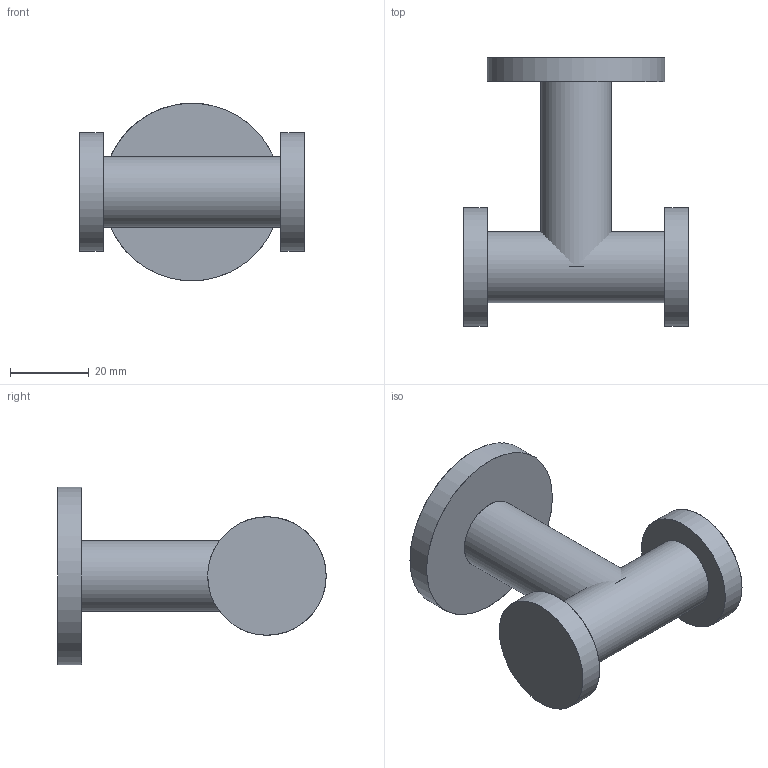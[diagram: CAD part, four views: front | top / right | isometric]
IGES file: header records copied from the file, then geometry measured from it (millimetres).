
Global section: file name: /Users/f/Desktop/I'/AE244.igs; native system: Rhinoceros ( Jul 22 2010 ); preprocessor: Trout Lake IGES 012 Jul 22 2010; date: 100727.142609; units: millimetre
Bounding box: 57 x 68 x 45 mm (x, y, z)
Surface area: 14220.4 mm2 (no closed solid volume)
Topology: 0 solids, 0 shells, 15 faces, 56 edges, 52 vertices
Faces by surface type: bspline 15
